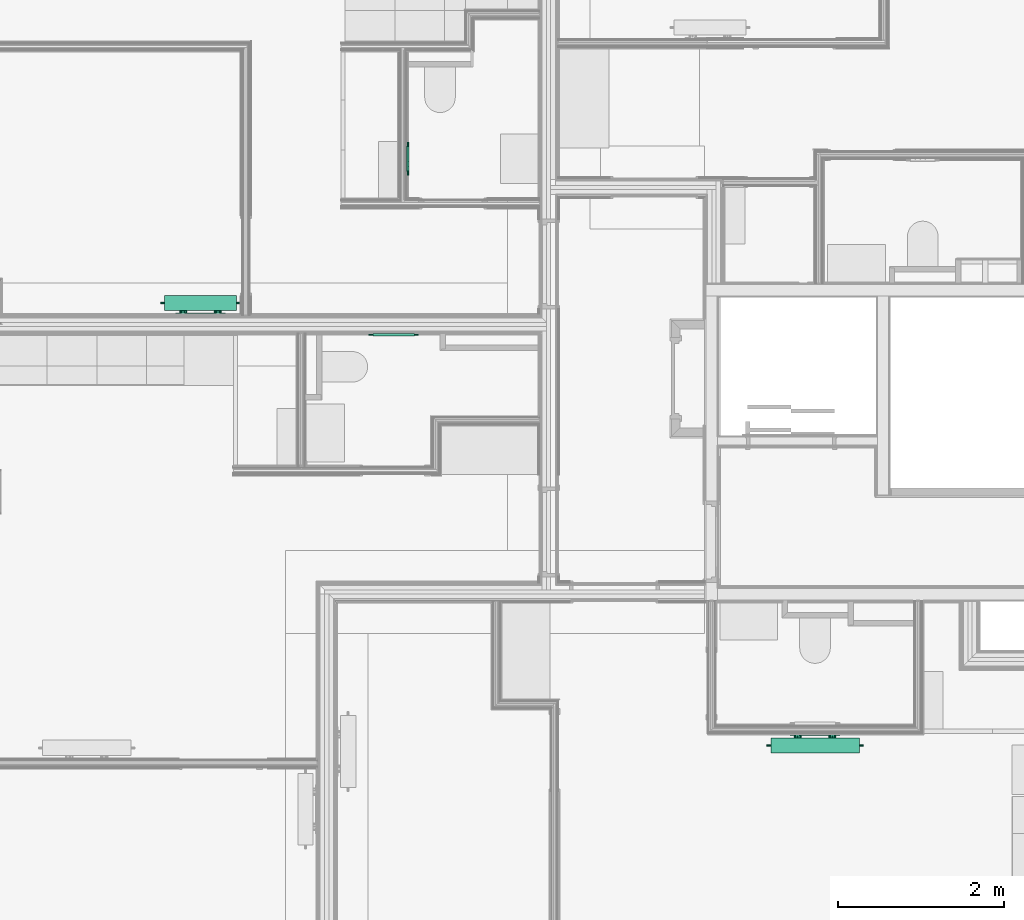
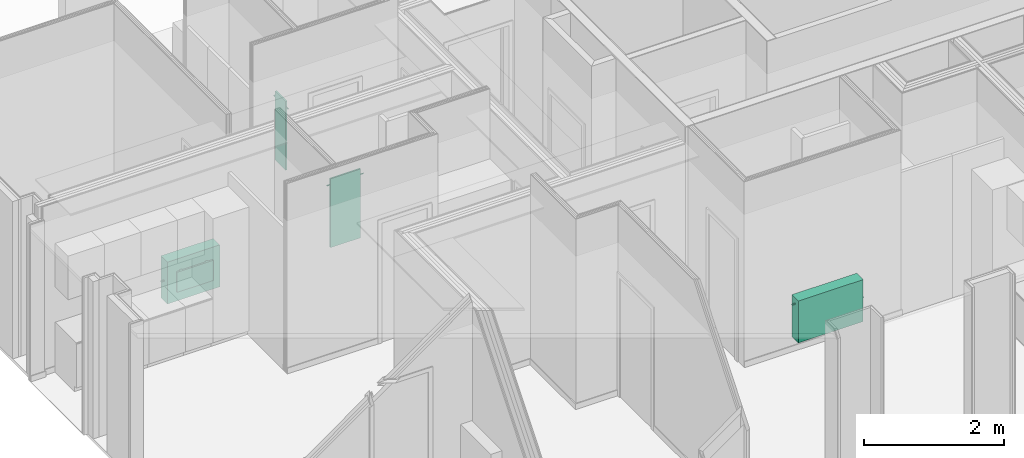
# One storey, part 56 of 64: 4 flow terminals.
"""IFC2X3 building model written with IfcOpenShell, lengths in metres."""

import ifcopenshell
import ifcopenshell.guid

model = None  # the IFC model being written
_history = None  # IfcOwnerHistory: only IFC2X3 demands one
_inside = {}  # id of a spatial element -> (the spatial element, [elements in it])
_under = {}  # id of a project, library or spatial element -> (it, [spatial elements below it])
_declared = {}  # id of a project -> (the project, [libraries it declares])
_typed = {}  # id of a type object -> (the type object, [elements of that type])
_made_of = {}  # id of a material, layer set ... -> (it, [elements and type objects made of it])


def new_model(schema):
    """Start an empty IFC model of exactly this schema.

    Asked for "IFC4X3", IfcOpenShell would pick the latest addendum, in which some entities
    have other attributes; the version numbers below select the first issue.
    IFC2X3 requires an IfcOwnerHistory on every rooted entity: one is made here for all.
    """
    global model, _history
    if schema == "IFC4X3":
        model = ifcopenshell.file(schema_version=(4, 3, 0, 0))
    else:
        model = ifcopenshell.file(schema=schema)
    _inside.clear()
    _under.clear()
    _declared.clear()
    _typed.clear()
    _made_of.clear()
    _history = None
    if model.schema == "IFC2X3":
        org = make("IfcOrganization", Name="unknown")
        user = make(
            "IfcPersonAndOrganization",
            ThePerson=make("IfcPerson", FamilyName="unknown"),
            TheOrganization=org,
        )
        app = make(
            "IfcApplication",
            ApplicationDeveloper=org,
            Version="unknown",
            ApplicationFullName="unknown",
            ApplicationIdentifier="unknown",
        )
        _history = make(
            "IfcOwnerHistory",
            OwningUser=user,
            OwningApplication=app,
            ChangeAction="ADDED",
            CreationDate=0,
        )
    return model


def make(cls, **values):
    """One entity of the class cls with the attributes given. An attribute that is None is left unset."""
    return model.create_entity(
        cls, **{name: value for name, value in values.items() if value is not None}
    )


def entity(cls, *values):
    """Any entity or typed value of the class cls, its attributes in the order of the schema. None: left unset."""
    e = model.create_entity(cls)
    for i, value in enumerate(values):
        if value is not None:
            e[i] = value
    return e


def rooted(cls, **values):
    """An entity with a GlobalId (a new one), such as an element, a storey or a relation."""
    return make(cls, GlobalId=ifcopenshell.guid.new(), OwnerHistory=_history, **values)


def si_unit(unit_type, name, prefix=None):
    """IfcSIUnit, for example si_unit("LENGTHUNIT", "METRE", prefix="MILLI")."""
    return make("IfcSIUnit", UnitType=unit_type, Prefix=prefix, Name=name)


def converted_unit(unit_type, name, factor, base, dimensions=None, offset=None):
    """IfcConversionBasedUnit, such as the inch: factor (a typed value) times the base unit."""
    return make(
        "IfcConversionBasedUnit"
        if offset is None
        else "IfcConversionBasedUnitWithOffset",
        ConversionOffset=offset,
        Dimensions=None
        if dimensions is None
        else entity("IfcDimensionalExponents", *dimensions),
        UnitType=unit_type,
        Name=name,
        ConversionFactor=make(
            "IfcMeasureWithUnit", ValueComponent=factor, UnitComponent=base
        ),
    )


def derived_unit(unit_type, elements):
    """IfcDerivedUnit: a product of units, each with its exponent."""
    return make(
        "IfcDerivedUnit",
        Elements=[
            make("IfcDerivedUnitElement", Unit=unit, Exponent=power)
            for unit, power in elements
        ],
        UnitType=unit_type,
    )


def money_unit(currency):
    """IfcMonetaryUnit."""
    return make("IfcMonetaryUnit", Currency=currency)


def assignment(units):
    """IfcUnitAssignment: the units of a project."""
    return None if units is None else make("IfcUnitAssignment", Units=units)


def point(xyz):
    """IfcCartesianPoint."""
    return None if xyz is None else make("IfcCartesianPoint", Coordinates=xyz)


def direction(xyz):
    """IfcDirection."""
    return None if xyz is None else make("IfcDirection", DirectionRatios=xyz)


def frame(location, z_axis=None, x_axis=None):
    """IfcAxis2Placement3D, a coordinate frame: its origin and axes. An axis left out is left unset."""
    return make(
        "IfcAxis2Placement3D",
        Location=point(location),
        Axis=direction(z_axis),
        RefDirection=direction(x_axis),
    )


def origin_with_axes():
    """The frame at (0, 0, 0) with the z axis (0, 0, 1) and the x axis (1, 0, 0) written out."""
    return frame((0.0, 0.0, 0.0), z_axis=(0.0, 0.0, 1.0), x_axis=(1.0, 0.0, 0.0))


def place(relative_to, where):
    """IfcLocalPlacement: puts the frame where relative to a parent placement (None: the world)."""
    return make(
        "IfcLocalPlacement", PlacementRelTo=relative_to, RelativePlacement=where
    )


def context(
    kind, dimensions, precision=None, world=None, true_north=None, identifier=None
):
    """IfcGeometricRepresentationContext, for example the 3D "Model" context."""
    return make(
        "IfcGeometricRepresentationContext",
        ContextIdentifier=identifier,
        ContextType=kind,
        CoordinateSpaceDimension=dimensions,
        Precision=precision,
        WorldCoordinateSystem=world,
        TrueNorth=true_north,
    )


def subcontext(parent, identifier, kind, view, scale=None):
    """IfcGeometricRepresentationSubContext, for example "Body" below "Model"."""
    return make(
        "IfcGeometricRepresentationSubContext",
        ContextIdentifier=identifier,
        ContextType=kind,
        ParentContext=parent,
        TargetScale=scale,
        TargetView=view,
    )


def project(units=None, contexts=None):
    """IfcProject with its units and contexts."""
    return rooted(
        "IfcProject",
        Name="project",
        RepresentationContexts=contexts,
        UnitsInContext=assignment(units),
    )


def spatial(cls, under=None, at=None, **own):
    """A site, building, storey or space (cls), placed at a placement, below another one or the project."""
    s = rooted(cls, ObjectPlacement=at, **own)
    if under is not None:
        _under.setdefault(under.id(), (under, []))[1].append(s)
    return s


def faces_of(points, faces, orient=None, outer=None):
    """IfcFace entities. A face is a list of loops; a loop is a list of indices into points, from 0.

    orient and outer hold one flag for each loop. By default every Orientation is true, the
    first loop of a face is its IfcFaceOuterBound and the others are IfcFaceBound.
    """
    made = []
    for i, loops in enumerate(faces):
        bounds = []
        for j, loop in enumerate(loops):
            is_outer = j == 0 if outer is None else outer[i][j]
            bounds.append(
                make(
                    "IfcFaceOuterBound" if is_outer else "IfcFaceBound",
                    Bound=make("IfcPolyLoop", Polygon=[points[k] for k in loop]),
                    Orientation=True if orient is None else orient[i][j],
                )
            )
        made.append(make("IfcFace", Bounds=bounds))
    return made


def open_shell(faces, orient=None, outer=None):
    """The faces of one IfcOpenShell. surface_model builds it on its shared points."""
    return ("IfcOpenShell", faces, orient, outer)


def surface_model(cls, points, shells):
    """IfcFaceBasedSurfaceModel or IfcShellBasedSurfaceModel (cls): surfaces that need not close."""
    shared = [point(p) for p in points]
    made = [make(c, CfsFaces=faces_of(shared, fs, o, b)) for c, fs, o, b in shells]
    if cls == "IfcFaceBasedSurfaceModel":
        return make(cls, FbsmFaces=made)
    return make(cls, SbsmBoundary=made)


def shape(context_of_items, identifier, shape_type, items):
    """IfcShapeRepresentation: the items that make up one representation, for example the "Body"."""
    return make(
        "IfcShapeRepresentation",
        ContextOfItems=context_of_items,
        RepresentationIdentifier=identifier,
        RepresentationType=shape_type,
        Items=items,
    )


def material(Name=None, Category=None):
    """IfcMaterial."""
    return make("IfcMaterial", Name=Name, Category=Category)


def made_of(thing, what):
    """Note that an element or type object is made of a material, layer set ...; save() writes the relation."""
    if what is not None:
        _made_of.setdefault(what.id(), (what, []))[1].append(thing)
    return thing


def type_object(cls, material=None, **own):
    """A type object (cls), such as IfcWallType, which elements share."""
    return made_of(rooted(cls, **own), material)


def element(
    cls,
    number,
    at=None,
    inside=None,
    cuts=None,
    type_object=None,
    material=None,
    context=None,
    identifier="Body",
    shape_type=None,
    held_by="IfcProductDefinitionShape",
    body=None,
    shapes=None,
    **own,
):
    """One element of the class cls, such as IfcWall. Its Tag is "e" and its number.

    at: its placement. inside: the storey or other place that contains it. cuts: it is an
    opening in that element (IfcRelVoidsElement). A single representation is given by context,
    identifier, shape_type and body (its items); several are given by shapes. held_by: the class
    of the entity that holds the representations. save() writes the other relations.
    """
    e = rooted(cls, Tag="e%d" % number, ObjectPlacement=at, **own)
    if body is not None:
        shapes = [shape(context, identifier, shape_type, body)]
    if shapes is not None:
        e.Representation = make(held_by, Representations=shapes)
    if inside is not None:
        _inside.setdefault(inside.id(), (inside, []))[1].append(e)
    if cuts is not None:
        rooted(
            "IfcRelVoidsElement", RelatingBuildingElement=cuts, RelatedOpeningElement=e
        )
    if type_object is not None:
        _typed.setdefault(type_object.id(), (type_object, []))[1].append(e)
    return made_of(e, material)


def aggregate(whole, parts):
    """IfcRelAggregates: a whole, such as a stair, and the parts it consists of."""
    return rooted("IfcRelAggregates", RelatingObject=whole, RelatedObjects=parts)


def save(model, path):
    """Write the relations noted so far, then the file.

    IfcRelAggregates (storeys below a building ...), IfcRelContainedInSpatialStructure (elements
    in a storey), IfcRelDefinesByType, IfcRelAssociatesMaterial and IfcRelDeclares: one each for
    every whole, place, type object, material and project.
    """
    for whole, parts in _under.values():
        aggregate(whole, parts)
    for where, things in _inside.values():
        rooted(
            "IfcRelContainedInSpatialStructure",
            RelatedElements=things,
            RelatingStructure=where,
        )
    for kind, things in _typed.values():
        rooted("IfcRelDefinesByType", RelatedObjects=things, RelatingType=kind)
    for what, things in _made_of.values():
        rooted("IfcRelAssociatesMaterial", RelatedObjects=things, RelatingMaterial=what)
    for by, libraries in _declared.values():
        rooted("IfcRelDeclares", RelatingContext=by, RelatedDefinitions=libraries)
    model.write(path)


model = new_model("IFC2X3")

# Units and contexts
model_context = context("Model", 3, precision=1e-05, world=origin_with_axes(), true_north=direction((0.0, 1.0)))
body_context = subcontext(model_context, "Body", "Model", "MODEL_VIEW", scale=1.0)
ifc_project = project(units=[si_unit("LENGTHUNIT", "METRE"), si_unit("AREAUNIT", "SQUARE_METRE"), si_unit("VOLUMEUNIT", "CUBIC_METRE"), si_unit("ABSORBEDDOSEUNIT", "GRAY"), si_unit("AMOUNTOFSUBSTANCEUNIT", "MOLE"), si_unit("DOSEEQUIVALENTUNIT", "SIEVERT"), si_unit("ELECTRICCAPACITANCEUNIT", "FARAD"), si_unit("ELECTRICCHARGEUNIT", "COULOMB"), si_unit("ELECTRICCONDUCTANCEUNIT", "SIEMENS"), si_unit("ELECTRICCURRENTUNIT", "AMPERE"), si_unit("ELECTRICRESISTANCEUNIT", "OHM"), si_unit("ELECTRICVOLTAGEUNIT", "VOLT"), si_unit("ENERGYUNIT", "JOULE"), si_unit("FORCEUNIT", "NEWTON"), si_unit("FREQUENCYUNIT", "HERTZ"), si_unit("ILLUMINANCEUNIT", "LUX"), si_unit("INDUCTANCEUNIT", "HENRY"), si_unit("LUMINOUSFLUXUNIT", "LUMEN"), si_unit("LUMINOUSINTENSITYUNIT", "CANDELA"), si_unit("MAGNETICFLUXDENSITYUNIT", "TESLA"), si_unit("MAGNETICFLUXUNIT", "WEBER"), si_unit("MASSUNIT", "GRAM"), converted_unit("PLANEANGLEUNIT", "degree", entity("IfcReal", 0.0174532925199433), si_unit("PLANEANGLEUNIT", "RADIAN"), dimensions=[0, 0, 0, 0, 0, 0, 0]), si_unit("POWERUNIT", "WATT"), si_unit("PRESSUREUNIT", "PASCAL"), si_unit("RADIOACTIVITYUNIT", "BECQUEREL"), si_unit("SOLIDANGLEUNIT", "STERADIAN"), si_unit("THERMODYNAMICTEMPERATUREUNIT", "KELVIN"), si_unit("TIMEUNIT", "SECOND"), derived_unit("ACCELERATIONUNIT", [(si_unit("LENGTHUNIT", "METRE"), 1), (si_unit("TIMEUNIT", "SECOND"), -2)]), derived_unit("ANGULARVELOCITYUNIT", [(converted_unit("PLANEANGLEUNIT", "degree", entity("IfcReal", 0.0174532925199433), si_unit("PLANEANGLEUNIT", "RADIAN"), dimensions=[0, 0, 0, 0, 0, 0, 0]), 1), (si_unit("TIMEUNIT", "SECOND"), -1)]), derived_unit("CURVATUREUNIT", [(converted_unit("PLANEANGLEUNIT", "degree", entity("IfcReal", 0.0174532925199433), si_unit("PLANEANGLEUNIT", "RADIAN"), dimensions=[0, 0, 0, 0, 0, 0, 0]), 1), (si_unit("LENGTHUNIT", "METRE"), -1)]), derived_unit("DYNAMICVISCOSITYUNIT", [(si_unit("PRESSUREUNIT", "PASCAL"), 1), (si_unit("TIMEUNIT", "SECOND"), 1)]), derived_unit("HEATFLUXDENSITYUNIT", [(si_unit("POWERUNIT", "WATT"), 1), (si_unit("LENGTHUNIT", "METRE"), -2)]), derived_unit("HEATINGVALUEUNIT", [(si_unit("ENERGYUNIT", "JOULE"), 1), (si_unit("MASSUNIT", "GRAM"), -1)]), derived_unit("INTEGERCOUNTRATEUNIT", [(si_unit("TIMEUNIT", "SECOND"), -1)]), derived_unit("IONCONCENTRATIONUNIT", [(si_unit("MASSUNIT", "GRAM"), 1), (si_unit("VOLUMEUNIT", "CUBIC_METRE"), -1)]), derived_unit("ISOTHERMALMOISTURECAPACITYUNIT", [(si_unit("VOLUMEUNIT", "CUBIC_METRE"), 1), (si_unit("MASSUNIT", "GRAM"), -1)]), derived_unit("KINEMATICVISCOSITYUNIT", [(si_unit("AREAUNIT", "SQUARE_METRE"), 1), (si_unit("TIMEUNIT", "SECOND"), -1)]), derived_unit("LINEARFORCEUNIT", [(si_unit("FORCEUNIT", "NEWTON"), 1), (si_unit("LENGTHUNIT", "METRE"), -1)]), derived_unit("LINEARMOMENTUNIT", [(si_unit("FORCEUNIT", "NEWTON"), 1), (si_unit("LENGTHUNIT", "METRE"), -1)]), derived_unit("LINEARSTIFFNESSUNIT", [(si_unit("FORCEUNIT", "NEWTON"), 1), (si_unit("LENGTHUNIT", "METRE"), -1)]), derived_unit("LINEARVELOCITYUNIT", [(si_unit("LENGTHUNIT", "METRE"), 1), (si_unit("TIMEUNIT", "SECOND"), -1)]), derived_unit("LUMINOUSINTENSITYDISTRIBUTIONUNIT", [(si_unit("LUMINOUSINTENSITYUNIT", "CANDELA"), 1), (si_unit("LUMINOUSFLUXUNIT", "LUMEN"), -1)]), derived_unit("MASSDENSITYUNIT", [(si_unit("MASSUNIT", "GRAM"), 1), (si_unit("VOLUMEUNIT", "CUBIC_METRE"), -1)]), derived_unit("MASSFLOWRATEUNIT", [(si_unit("MASSUNIT", "GRAM"), 1), (si_unit("TIMEUNIT", "SECOND"), -1)]), derived_unit("MASSPERLENGTHUNIT", [(si_unit("MASSUNIT", "GRAM"), 1), (si_unit("LENGTHUNIT", "METRE"), -1)]), derived_unit("MODULUSOFELASTICITYUNIT", [(si_unit("FORCEUNIT", "NEWTON"), 1), (si_unit("AREAUNIT", "SQUARE_METRE"), -1)]), derived_unit("MODULUSOFLINEARSUBGRADEREACTIONUNIT", [(si_unit("FORCEUNIT", "NEWTON"), 1), (si_unit("LENGTHUNIT", "METRE"), -2)]), derived_unit("MODULUSOFROTATIONALSUBGRADEREACTIONUNIT", [(si_unit("FORCEUNIT", "NEWTON"), 1), (si_unit("LENGTHUNIT", "METRE"), 1)]), derived_unit("MODULUSOFSUBGRADEREACTIONUNIT", [(si_unit("FORCEUNIT", "NEWTON"), 1), (si_unit("VOLUMEUNIT", "CUBIC_METRE"), -1)]), derived_unit("MOISTUREDIFFUSIVITYUNIT", [(si_unit("VOLUMEUNIT", "CUBIC_METRE"), 1), (si_unit("TIMEUNIT", "SECOND"), -1)]), derived_unit("MOLECULARWEIGHTUNIT", [(si_unit("MASSUNIT", "GRAM"), 1), (si_unit("AMOUNTOFSUBSTANCEUNIT", "MOLE"), -1)]), derived_unit("PLANARFORCEUNIT", [(si_unit("FORCEUNIT", "NEWTON"), 1), (si_unit("LENGTHUNIT", "METRE"), -2)]), derived_unit("ROTATIONALFREQUENCYUNIT", [(si_unit("TIMEUNIT", "SECOND"), -1)]), derived_unit("ROTATIONALMASSUNIT", [(si_unit("MASSUNIT", "GRAM"), 1), (si_unit("LENGTHUNIT", "METRE"), 2)]), derived_unit("ROTATIONALSTIFFNESSUNIT", [(si_unit("FORCEUNIT", "NEWTON"), 1), (si_unit("LENGTHUNIT", "METRE"), 1), (converted_unit("PLANEANGLEUNIT", "degree", entity("IfcReal", 0.0174532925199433), si_unit("PLANEANGLEUNIT", "RADIAN"), dimensions=[0, 0, 0, 0, 0, 0, 0]), -1)]), derived_unit("SECTIONAREAINTEGRALUNIT", [(si_unit("LENGTHUNIT", "METRE"), 5)]), derived_unit("SECTIONMODULUSUNIT", [(si_unit("LENGTHUNIT", "METRE"), 3)]), derived_unit("SHEARMODULUSUNIT", [(si_unit("FORCEUNIT", "NEWTON"), 1), (si_unit("AREAUNIT", "SQUARE_METRE"), -1)]), derived_unit("SOUNDPOWERUNIT", [(si_unit("ENERGYUNIT", "JOULE"), 1), (si_unit("TIMEUNIT", "SECOND"), -1)]), derived_unit("SPECIFICHEATCAPACITYUNIT", [(si_unit("FORCEUNIT", "NEWTON"), 1), (si_unit("MASSUNIT", "GRAM"), -1), (si_unit("THERMODYNAMICTEMPERATUREUNIT", "KELVIN"), -1)]), derived_unit("TEMPERATUREGRADIENTUNIT", [(si_unit("THERMODYNAMICTEMPERATUREUNIT", "KELVIN"), 1), (si_unit("LENGTHUNIT", "METRE"), -1)]), derived_unit("THERMALADMITTANCEUNIT", [(si_unit("POWERUNIT", "WATT"), 1), (si_unit("AREAUNIT", "SQUARE_METRE"), -1), (si_unit("THERMODYNAMICTEMPERATUREUNIT", "KELVIN"), -1)]), derived_unit("THERMALCONDUCTANCEUNIT", [(si_unit("POWERUNIT", "WATT"), 1), (si_unit("LENGTHUNIT", "METRE"), -1), (si_unit("THERMODYNAMICTEMPERATUREUNIT", "KELVIN"), -1)]), derived_unit("THERMALEXPANSIONCOEFFICIENTUNIT", [(si_unit("THERMODYNAMICTEMPERATUREUNIT", "KELVIN"), -1)]), derived_unit("THERMALRESISTANCEUNIT", [(si_unit("AREAUNIT", "SQUARE_METRE"), 1), (si_unit("POWERUNIT", "WATT"), -1)]), derived_unit("THERMALTRANSMITTANCEUNIT", [(si_unit("POWERUNIT", "WATT"), 1), (si_unit("AREAUNIT", "SQUARE_METRE"), -1), (si_unit("THERMODYNAMICTEMPERATUREUNIT", "KELVIN"), -1)]), derived_unit("TORQUEUNIT", [(si_unit("FORCEUNIT", "NEWTON"), 1), (si_unit("LENGTHUNIT", "METRE"), 1)]), derived_unit("VAPORPERMEABILITYUNIT", [(si_unit("MASSUNIT", "GRAM"), 1), (si_unit("TIMEUNIT", "SECOND"), -1)]), derived_unit("VOLUMETRICFLOWRATEUNIT", [(si_unit("VOLUMEUNIT", "CUBIC_METRE"), 1), (si_unit("TIMEUNIT", "SECOND"), -1)]), derived_unit("WARPINGCONSTANTUNIT", [(si_unit("LENGTHUNIT", "METRE"), 6)]), derived_unit("WARPINGMOMENTUNIT", [(si_unit("FORCEUNIT", "NEWTON"), 1), (si_unit("LENGTHUNIT", "METRE"), 2)]), money_unit("GBP")], contexts=[model_context])

# Site, building, storey, space
site_placement = place(None, origin_with_axes())
site = spatial("IfcSite", under=ifc_project, at=site_placement, Name="Site", CompositionType="ELEMENT")
building_placement = place(site_placement, origin_with_axes())
building = spatial("IfcBuilding", under=site, at=building_placement, Name="Building01", CompositionType="ELEMENT")
storey_placement = place(building_placement, frame((0.0, 0.0, 8.64), z_axis=(0.0, 0.0, 1.0), x_axis=(1.0, 0.0, 0.0)))
storey = spatial("IfcBuildingStorey", under=building, at=storey_placement, Name="2F", CompositionType="ELEMENT", Elevation=8.64)
space_1_placement = place(storey_placement, frame((7.064669, 14.582, 0.017975), z_axis=(0.0, 0.0, 1.0), x_axis=(-1.0, 0.0, 0.0)))
space_1 = spatial("IfcSpace", under=storey, at=space_1_placement, Name="14", CompositionType="ELEMENT", InteriorOrExteriorSpace="NOTDEFINED")

# Flow terminal
ifc_material = material(Name="M_BSUK_Ventilation")
space_heater_type_1 = type_object("IfcSpaceHeaterType", Name="M-BmvRadiatorpanel-Panel", PredefinedType="NOTDEFINED")
flow_terminal_1_placement = place(storey_placement, frame((2.540669, 8.58092, 0.68), z_axis=(0.0, 0.0, 1.0), x_axis=(-1.0, 0.0, 0.0)))
element("IfcFlowTerminal", 1, at=flow_terminal_1_placement, inside=space_1, type_object=space_heater_type_1, material=ifc_material, Name="M-BmvRadiatorpanel-Panel", ObjectType="M-BmvRadiatorpanel-Panel", context=body_context, shape_type="SurfaceModel", body=[
    surface_model("IfcShellBasedSurfaceModel", [(-0.865, -0.0925, 0.365), (-0.865, 0.0925, 0.365), (0.0, 0.0925, 0.365), (0.0, -0.0925, 0.365), (-0.865, -0.0925, -0.365), (-0.865, 0.0925, -0.365), (0.0, -0.0925, -0.365), (0.0, 0.0925, -0.365), (-0.1325, 0.12025, 0.175), (-0.7325, 0.12025, 0.175), (-0.7325, 0.14525, 0.175), (-0.1325, 0.14525, 0.175), (-0.7325, 0.14525, -0.175), (-0.1325, 0.14525, -0.175), (-0.7325, 0.12025, -0.175), (-0.1325, 0.12025, -0.175), (-0.2225, 0.0925, 0.0775), (-0.2225, 0.12025, 0.0775), (-0.205279, 0.12025, 0.080925), (-0.205279, 0.0925, 0.080925), (-0.19068, 0.12025, 0.09068), (-0.19068, 0.0925, 0.09068), (-0.180925, 0.12025, 0.105279), (-0.180925, 0.0925, 0.105279), (-0.1775, 0.12025, 0.1225), (-0.1775, 0.0925, 0.1225), (-0.180925, 0.12025, 0.139721), (-0.180925, 0.0925, 0.139721), (-0.19068, 0.12025, 0.15432), (-0.19068, 0.0925, 0.15432), (-0.205279, 0.12025, 0.164075), (-0.205279, 0.0925, 0.164075), (-0.2225, 0.12025, 0.1675), (-0.2225, 0.0925, 0.1675), (-0.239721, 0.12025, 0.164075), (-0.239721, 0.0925, 0.164075), (-0.25432, 0.12025, 0.15432), (-0.25432, 0.0925, 0.15432), (-0.264075, 0.12025, 0.139721), (-0.264075, 0.0925, 0.139721), (-0.2675, 0.12025, 0.1225), (-0.2675, 0.0925, 0.1225), (-0.264075, 0.12025, 0.105279), (-0.264075, 0.0925, 0.105279), (-0.25432, 0.12025, 0.09068), (-0.25432, 0.0925, 0.09068), (-0.239721, 0.12025, 0.080925), (-0.239721, 0.0925, 0.080925), (-0.6425, 0.0925, 0.0775), (-0.6425, 0.12025, 0.0775), (-0.625279, 0.12025, 0.080925), (-0.625279, 0.0925, 0.080925), (-0.61068, 0.12025, 0.09068), (-0.61068, 0.0925, 0.09068), (-0.600925, 0.12025, 0.105279), (-0.600925, 0.0925, 0.105279), (-0.5975, 0.12025, 0.1225), (-0.5975, 0.0925, 0.1225), (-0.600925, 0.12025, 0.139721), (-0.600925, 0.0925, 0.139721), (-0.61068, 0.12025, 0.15432), (-0.61068, 0.0925, 0.15432), (-0.625279, 0.12025, 0.164075), (-0.625279, 0.0925, 0.164075), (-0.6425, 0.12025, 0.1675), (-0.6425, 0.0925, 0.1675), (-0.659721, 0.12025, 0.164075), (-0.659721, 0.0925, 0.164075), (-0.67432, 0.12025, 0.15432), (-0.67432, 0.0925, 0.15432), (-0.684075, 0.12025, 0.139721), (-0.684075, 0.0925, 0.139721), (-0.6875, 0.12025, 0.1225), (-0.6875, 0.0925, 0.1225), (-0.684075, 0.12025, 0.105279), (-0.684075, 0.0925, 0.105279), (-0.67432, 0.12025, 0.09068), (-0.67432, 0.0925, 0.09068), (-0.659721, 0.12025, 0.080925), (-0.659721, 0.0925, 0.080925), (0.05, 0.0, -0.0225), (0.0, 0.0, -0.0225), (0.0, 0.004784, -0.021548), (0.05, 0.004784, -0.021548), (0.0, 0.008839, -0.018839), (0.05, 0.008839, -0.018839), (0.0, 0.011548, -0.014784), (0.05, 0.011548, -0.014784), (0.0, 0.0125, -0.01), (0.05, 0.0125, -0.01), (0.0, 0.011548, -0.005216), (0.05, 0.011548, -0.005216), (0.0, 0.008839, -0.001161), (0.05, 0.008839, -0.001161), (0.0, 0.004784, 0.001548), (0.05, 0.004784, 0.001548), (0.0, 0.0, 0.0025), (0.05, 0.0, 0.0025), (0.0, -0.004784, 0.001548), (0.05, -0.004784, 0.001548), (0.0, -0.008839, -0.001161), (0.05, -0.008839, -0.001161), (0.0, -0.011548, -0.005216), (0.05, -0.011548, -0.005216), (0.0, -0.0125, -0.01), (0.05, -0.0125, -0.01), (0.0, -0.011548, -0.014784), (0.05, -0.011548, -0.014784), (0.0, -0.008839, -0.018839), (0.05, -0.008839, -0.018839), (0.0, -0.004784, -0.021548), (0.05, -0.004784, -0.021548), (-0.915, 0.0, 0.2525), (-0.865, 0.0, 0.2525), (-0.865, -0.004784, 0.253452), (-0.915, -0.004784, 0.253452), (-0.865, -0.008839, 0.256161), (-0.915, -0.008839, 0.256161), (-0.865, -0.011548, 0.260216), (-0.915, -0.011548, 0.260216), (-0.865, -0.0125, 0.265), (-0.915, -0.0125, 0.265), (-0.865, -0.011548, 0.269784), (-0.915, -0.011548, 0.269784), (-0.865, -0.008839, 0.273839), (-0.915, -0.008839, 0.273839), (-0.865, -0.004784, 0.276548), (-0.915, -0.004784, 0.276548), (-0.865, 0.0, 0.2775), (-0.915, 0.0, 0.2775), (-0.865, 0.004784, 0.276548), (-0.915, 0.004784, 0.276548), (-0.865, 0.008839, 0.273839), (-0.915, 0.008839, 0.273839), (-0.865, 0.011548, 0.269784), (-0.915, 0.011548, 0.269784), (-0.865, 0.0125, 0.265), (-0.915, 0.0125, 0.265), (-0.865, 0.011548, 0.260216), (-0.915, 0.011548, 0.260216), (-0.865, 0.008839, 0.256161), (-0.915, 0.008839, 0.256161), (-0.865, 0.004784, 0.253452), (-0.915, 0.004784, 0.253452)], [open_shell([[[0, 1, 2, 3]], [[4, 5, 1, 0]], [[6, 7, 5, 4]], [[3, 2, 7, 6]], [[1, 5, 7, 2]], [[3, 6, 4, 0]], [[8, 9, 10, 11]], [[11, 10, 12, 13]], [[13, 12, 14, 15]], [[15, 14, 9, 8]], [[9, 14, 12, 10]], [[11, 13, 15, 8]], [[16, 17, 18, 19]], [[19, 18, 20, 21]], [[21, 20, 22, 23]], [[23, 22, 24, 25]], [[25, 24, 26, 27]], [[27, 26, 28, 29]], [[29, 28, 30, 31]], [[31, 30, 32, 33]], [[33, 32, 34, 35]], [[35, 34, 36, 37]], [[37, 36, 38, 39]], [[39, 38, 40, 41]], [[41, 40, 42, 43]], [[43, 42, 44, 45]], [[45, 44, 46, 47]], [[47, 46, 17, 16]], [[48, 49, 50, 51]], [[51, 50, 52, 53]], [[53, 52, 54, 55]], [[55, 54, 56, 57]], [[57, 56, 58, 59]], [[59, 58, 60, 61]], [[61, 60, 62, 63]], [[63, 62, 64, 65]], [[65, 64, 66, 67]], [[67, 66, 68, 69]], [[69, 68, 70, 71]], [[71, 70, 72, 73]], [[73, 72, 74, 75]], [[75, 74, 76, 77]], [[77, 76, 78, 79]], [[79, 78, 49, 48]], [[80, 81, 82, 83]], [[83, 82, 84, 85]], [[85, 84, 86, 87]], [[87, 86, 88, 89]], [[89, 88, 90, 91]], [[91, 90, 92, 93]], [[93, 92, 94, 95]], [[95, 94, 96, 97]], [[97, 96, 98, 99]], [[99, 98, 100, 101]], [[101, 100, 102, 103]], [[103, 102, 104, 105]], [[105, 104, 106, 107]], [[107, 106, 108, 109]], [[109, 108, 110, 111]], [[111, 110, 81, 80]], [[112, 113, 114, 115]], [[115, 114, 116, 117]], [[117, 116, 118, 119]], [[119, 118, 120, 121]], [[121, 120, 122, 123]], [[123, 122, 124, 125]], [[125, 124, 126, 127]], [[127, 126, 128, 129]], [[129, 128, 130, 131]], [[131, 130, 132, 133]], [[133, 132, 134, 135]], [[135, 134, 136, 137]], [[137, 136, 138, 139]], [[139, 138, 140, 141]], [[141, 140, 142, 143]], [[143, 142, 113, 112]]])]),
])

# Space
space_2_placement = place(storey_placement, frame((12.15, 4.98, 0.017975), z_axis=(0.0, 0.0, 1.0), x_axis=(-1.0, 0.0, 0.0)))
space_2 = spatial("IfcSpace", under=storey, at=space_2_placement, Name="12", CompositionType="ELEMENT", InteriorOrExteriorSpace="NOTDEFINED")

# Flow terminal
flow_terminal_2_placement = place(storey_placement, frame((10.927036, 3.23975, 0.68), z_axis=(0.0, 0.0, 1.0), x_axis=(1.0, 0.0, 0.0)))
element("IfcFlowTerminal", 2, at=flow_terminal_2_placement, inside=space_2, type_object=space_heater_type_1, material=ifc_material, Name="M-BmvRadiatorpanel-Panel", ObjectType="M-BmvRadiatorpanel-Panel", context=body_context, shape_type="SurfaceModel", body=[
    surface_model("IfcShellBasedSurfaceModel", [(-1.069, -0.0925, 0.365), (-1.069, 0.0925, 0.365), (0.0, 0.0925, 0.365), (0.0, -0.0925, 0.365), (-1.069, -0.0925, -0.365), (-1.069, 0.0925, -0.365), (0.0, -0.0925, -0.365), (0.0, 0.0925, -0.365), (-0.2345, 0.12025, 0.175), (-0.8345, 0.12025, 0.175), (-0.8345, 0.14525, 0.175), (-0.2345, 0.14525, 0.175), (-0.8345, 0.14525, -0.175), (-0.2345, 0.14525, -0.175), (-0.8345, 0.12025, -0.175), (-0.2345, 0.12025, -0.175), (-0.3245, 0.0925, 0.0775), (-0.3245, 0.12025, 0.0775), (-0.307279, 0.12025, 0.080925), (-0.307279, 0.0925, 0.080925), (-0.29268, 0.12025, 0.09068), (-0.29268, 0.0925, 0.09068), (-0.282925, 0.12025, 0.105279), (-0.282925, 0.0925, 0.105279), (-0.2795, 0.12025, 0.1225), (-0.2795, 0.0925, 0.1225), (-0.282925, 0.12025, 0.139721), (-0.282925, 0.0925, 0.139721), (-0.29268, 0.12025, 0.15432), (-0.29268, 0.0925, 0.15432), (-0.307279, 0.12025, 0.164075), (-0.307279, 0.0925, 0.164075), (-0.3245, 0.12025, 0.1675), (-0.3245, 0.0925, 0.1675), (-0.341721, 0.12025, 0.164075), (-0.341721, 0.0925, 0.164075), (-0.35632, 0.12025, 0.15432), (-0.35632, 0.0925, 0.15432), (-0.366075, 0.12025, 0.139721), (-0.366075, 0.0925, 0.139721), (-0.3695, 0.12025, 0.1225), (-0.3695, 0.0925, 0.1225), (-0.366075, 0.12025, 0.105279), (-0.366075, 0.0925, 0.105279), (-0.35632, 0.12025, 0.09068), (-0.35632, 0.0925, 0.09068), (-0.341721, 0.12025, 0.080925), (-0.341721, 0.0925, 0.080925), (-0.7445, 0.0925, 0.0775), (-0.7445, 0.12025, 0.0775), (-0.727279, 0.12025, 0.080925), (-0.727279, 0.0925, 0.080925), (-0.71268, 0.12025, 0.09068), (-0.71268, 0.0925, 0.09068), (-0.702925, 0.12025, 0.105279), (-0.702925, 0.0925, 0.105279), (-0.6995, 0.12025, 0.1225), (-0.6995, 0.0925, 0.1225), (-0.702925, 0.12025, 0.139721), (-0.702925, 0.0925, 0.139721), (-0.71268, 0.12025, 0.15432), (-0.71268, 0.0925, 0.15432), (-0.727279, 0.12025, 0.164075), (-0.727279, 0.0925, 0.164075), (-0.7445, 0.12025, 0.1675), (-0.7445, 0.0925, 0.1675), (-0.761721, 0.12025, 0.164075), (-0.761721, 0.0925, 0.164075), (-0.77632, 0.12025, 0.15432), (-0.77632, 0.0925, 0.15432), (-0.786075, 0.12025, 0.139721), (-0.786075, 0.0925, 0.139721), (-0.7895, 0.12025, 0.1225), (-0.7895, 0.0925, 0.1225), (-0.786075, 0.12025, 0.105279), (-0.786075, 0.0925, 0.105279), (-0.77632, 0.12025, 0.09068), (-0.77632, 0.0925, 0.09068), (-0.761721, 0.12025, 0.080925), (-0.761721, 0.0925, 0.080925), (0.05, 0.0, -0.0225), (0.0, 0.0, -0.0225), (0.0, 0.004784, -0.021548), (0.05, 0.004784, -0.021548), (0.0, 0.008839, -0.018839), (0.05, 0.008839, -0.018839), (0.0, 0.011548, -0.014784), (0.05, 0.011548, -0.014784), (0.0, 0.0125, -0.01), (0.05, 0.0125, -0.01), (0.0, 0.011548, -0.005216), (0.05, 0.011548, -0.005216), (0.0, 0.008839, -0.001161), (0.05, 0.008839, -0.001161), (0.0, 0.004784, 0.001548), (0.05, 0.004784, 0.001548), (0.0, 0.0, 0.0025), (0.05, 0.0, 0.0025), (0.0, -0.004784, 0.001548), (0.05, -0.004784, 0.001548), (0.0, -0.008839, -0.001161), (0.05, -0.008839, -0.001161), (0.0, -0.011548, -0.005216), (0.05, -0.011548, -0.005216), (0.0, -0.0125, -0.01), (0.05, -0.0125, -0.01), (0.0, -0.011548, -0.014784), (0.05, -0.011548, -0.014784), (0.0, -0.008839, -0.018839), (0.05, -0.008839, -0.018839), (0.0, -0.004784, -0.021548), (0.05, -0.004784, -0.021548), (-1.119, 0.0, 0.2525), (-1.069, 0.0, 0.2525), (-1.069, -0.004784, 0.253452), (-1.119, -0.004784, 0.253452), (-1.069, -0.008839, 0.256161), (-1.119, -0.008839, 0.256161), (-1.069, -0.011548, 0.260216), (-1.119, -0.011548, 0.260216), (-1.069, -0.0125, 0.265), (-1.119, -0.0125, 0.265), (-1.069, -0.011548, 0.269784), (-1.119, -0.011548, 0.269784), (-1.069, -0.008839, 0.273839), (-1.119, -0.008839, 0.273839), (-1.069, -0.004784, 0.276548), (-1.119, -0.004784, 0.276548), (-1.069, 0.0, 0.2775), (-1.119, 0.0, 0.2775), (-1.069, 0.004784, 0.276548), (-1.119, 0.004784, 0.276548), (-1.069, 0.008839, 0.273839), (-1.119, 0.008839, 0.273839), (-1.069, 0.011548, 0.269784), (-1.119, 0.011548, 0.269784), (-1.069, 0.0125, 0.265), (-1.119, 0.0125, 0.265), (-1.069, 0.011548, 0.260216), (-1.119, 0.011548, 0.260216), (-1.069, 0.008839, 0.256161), (-1.119, 0.008839, 0.256161), (-1.069, 0.004784, 0.253452), (-1.119, 0.004784, 0.253452)], [open_shell([[[0, 1, 2, 3]], [[4, 5, 1, 0]], [[6, 7, 5, 4]], [[3, 2, 7, 6]], [[1, 5, 7, 2]], [[3, 6, 4, 0]], [[8, 9, 10, 11]], [[11, 10, 12, 13]], [[13, 12, 14, 15]], [[15, 14, 9, 8]], [[9, 14, 12, 10]], [[11, 13, 15, 8]], [[16, 17, 18, 19]], [[19, 18, 20, 21]], [[21, 20, 22, 23]], [[23, 22, 24, 25]], [[25, 24, 26, 27]], [[27, 26, 28, 29]], [[29, 28, 30, 31]], [[31, 30, 32, 33]], [[33, 32, 34, 35]], [[35, 34, 36, 37]], [[37, 36, 38, 39]], [[39, 38, 40, 41]], [[41, 40, 42, 43]], [[43, 42, 44, 45]], [[45, 44, 46, 47]], [[47, 46, 17, 16]], [[48, 49, 50, 51]], [[51, 50, 52, 53]], [[53, 52, 54, 55]], [[55, 54, 56, 57]], [[57, 56, 58, 59]], [[59, 58, 60, 61]], [[61, 60, 62, 63]], [[63, 62, 64, 65]], [[65, 64, 66, 67]], [[67, 66, 68, 69]], [[69, 68, 70, 71]], [[71, 70, 72, 73]], [[73, 72, 74, 75]], [[75, 74, 76, 77]], [[77, 76, 78, 79]], [[79, 78, 49, 48]], [[80, 81, 82, 83]], [[83, 82, 84, 85]], [[85, 84, 86, 87]], [[87, 86, 88, 89]], [[89, 88, 90, 91]], [[91, 90, 92, 93]], [[93, 92, 94, 95]], [[95, 94, 96, 97]], [[97, 96, 98, 99]], [[99, 98, 100, 101]], [[101, 100, 102, 103]], [[103, 102, 104, 105]], [[105, 104, 106, 107]], [[107, 106, 108, 109]], [[109, 108, 110, 111]], [[111, 110, 81, 80]], [[112, 113, 114, 115]], [[115, 114, 116, 117]], [[117, 116, 118, 119]], [[119, 118, 120, 121]], [[121, 120, 122, 123]], [[123, 122, 124, 125]], [[125, 124, 126, 127]], [[127, 126, 128, 129]], [[129, 128, 130, 131]], [[131, 130, 132, 133]], [[133, 132, 134, 135]], [[135, 134, 136, 137]], [[137, 136, 138, 139]], [[139, 138, 140, 141]], [[141, 140, 142, 143]], [[143, 142, 113, 112]]])]),
])

# Space
space_3_placement = place(storey_placement, frame((4.24073, 6.606475, 0.017975), z_axis=(0.0, 0.0, 1.0), x_axis=(1.0, 0.0, 0.0)))
space_3 = spatial("IfcSpace", under=storey, at=space_3_placement, Name="bath", CompositionType="ELEMENT", InteriorOrExteriorSpace="NOTDEFINED")

# Flow terminals
space_heater_type_2 = type_object("IfcSpaceHeaterType", Name="M-BmvRadiator-Column", PredefinedType="NOTDEFINED")
flow_terminal_3_placement = place(storey_placement, frame((5.054088, 8.19817, 1.2), z_axis=(0.0, 0.0, 1.0), x_axis=(1.0, 0.0, 0.0)))
element("IfcFlowTerminal", 3, at=flow_terminal_3_placement, inside=space_3, type_object=space_heater_type_2, material=ifc_material, Name="M-BmvRadiator-Column", ObjectType="M-BmvRadiator-Column", context=body_context, shape_type="SurfaceModel", body=[
    surface_model("IfcShellBasedSurfaceModel", [(0.0, -0.0125, 0.6), (0.0, -0.0125, -0.6), (0.0, 0.0125, -0.6), (0.0, 0.0125, 0.6), (0.5, -0.0125, 0.6), (0.5, -0.0125, -0.6), (0.5, 0.0125, -0.6), (0.5, 0.0125, 0.6), (0.1, 0.0125, 0.6), (0.1, -0.0125, 0.6), (0.1, -0.0125, -0.6), (0.1, 0.0125, -0.6), (0.2, 0.0125, 0.6), (0.2, -0.0125, 0.6), (0.2, -0.0125, -0.6), (0.2, 0.0125, -0.6), (0.3, 0.0125, 0.6), (0.3, -0.0125, 0.6), (0.3, -0.0125, -0.6), (0.3, 0.0125, -0.6), (0.4, 0.0125, 0.6), (0.4, -0.0125, 0.6), (0.4, -0.0125, -0.6), (0.4, 0.0125, -0.6), (-0.05, 0.0, 0.4825), (0.0, 0.0, 0.4825), (0.0, -0.003827, 0.483261), (-0.05, -0.003827, 0.483261), (0.0, -0.007071, 0.485429), (-0.05, -0.007071, 0.485429), (0.0, -0.009239, 0.488673), (-0.05, -0.009239, 0.488673), (0.0, -0.01, 0.4925), (-0.05, -0.01, 0.4925), (0.0, -0.009239, 0.496327), (-0.05, -0.009239, 0.496327), (0.0, -0.007071, 0.499571), (-0.05, -0.007071, 0.499571), (0.0, -0.003827, 0.501739), (-0.05, -0.003827, 0.501739), (0.0, 0.0, 0.5025), (-0.05, 0.0, 0.5025), (0.0, 0.003827, 0.501739), (-0.05, 0.003827, 0.501739), (0.0, 0.007071, 0.499571), (-0.05, 0.007071, 0.499571), (0.0, 0.009239, 0.496327), (-0.05, 0.009239, 0.496327), (0.0, 0.01, 0.4925), (-0.05, 0.01, 0.4925), (0.0, 0.009239, 0.488673), (-0.05, 0.009239, 0.488673), (0.0, 0.007071, 0.485429), (-0.05, 0.007071, 0.485429), (0.0, 0.003827, 0.483261), (-0.05, 0.003827, 0.483261), (0.55, 0.0, 0.4884), (0.5, 0.0, 0.4884), (0.5, 0.003827, 0.489161), (0.55, 0.003827, 0.489161), (0.5, 0.007071, 0.491329), (0.55, 0.007071, 0.491329), (0.5, 0.009239, 0.494573), (0.55, 0.009239, 0.494573), (0.5, 0.01, 0.4984), (0.55, 0.01, 0.4984), (0.5, 0.009239, 0.502227), (0.55, 0.009239, 0.502227), (0.5, 0.007071, 0.505471), (0.55, 0.007071, 0.505471), (0.5, 0.003827, 0.507639), (0.55, 0.003827, 0.507639), (0.5, 0.0, 0.5084), (0.55, 0.0, 0.5084), (0.5, -0.003827, 0.507639), (0.55, -0.003827, 0.507639), (0.5, -0.007071, 0.505471), (0.55, -0.007071, 0.505471), (0.5, -0.009239, 0.502227), (0.55, -0.009239, 0.502227), (0.5, -0.01, 0.4984), (0.55, -0.01, 0.4984), (0.5, -0.009239, 0.494573), (0.55, -0.009239, 0.494573), (0.5, -0.007071, 0.491329), (0.55, -0.007071, 0.491329), (0.5, -0.003827, 0.489161), (0.55, -0.003827, 0.489161)], [open_shell([[[0, 1, 2, 3]], [[4, 5, 6, 7]], [[8, 3, 0, 9]], [[9, 0, 1, 10]], [[10, 1, 2, 11]], [[11, 2, 3, 8]], [[12, 8, 9, 13]], [[13, 9, 10, 14]], [[14, 10, 11, 15]], [[15, 11, 8, 12]], [[16, 12, 13, 17]], [[17, 13, 14, 18]], [[18, 14, 15, 19]], [[19, 15, 12, 16]], [[20, 16, 17, 21]], [[21, 17, 18, 22]], [[22, 18, 19, 23]], [[23, 19, 16, 20]], [[7, 20, 21, 4]], [[4, 21, 22, 5]], [[5, 22, 23, 6]], [[6, 23, 20, 7]], [[24, 25, 26, 27]], [[27, 26, 28, 29]], [[29, 28, 30, 31]], [[31, 30, 32, 33]], [[33, 32, 34, 35]], [[35, 34, 36, 37]], [[37, 36, 38, 39]], [[39, 38, 40, 41]], [[41, 40, 42, 43]], [[43, 42, 44, 45]], [[45, 44, 46, 47]], [[47, 46, 48, 49]], [[49, 48, 50, 51]], [[51, 50, 52, 53]], [[53, 52, 54, 55]], [[55, 54, 25, 24]], [[56, 57, 58, 59]], [[59, 58, 60, 61]], [[61, 60, 62, 63]], [[63, 62, 64, 65]], [[65, 64, 66, 67]], [[67, 66, 68, 69]], [[69, 68, 70, 71]], [[71, 70, 72, 73]], [[73, 72, 74, 75]], [[75, 74, 76, 77]], [[77, 76, 78, 79]], [[79, 78, 80, 81]], [[81, 80, 82, 83]], [[83, 82, 84, 85]], [[85, 84, 86, 87]], [[87, 86, 57, 56]]])]),
])
flow_terminal_4_placement = place(storey_placement, frame((5.477169, 10.47326, 1.2), z_axis=(0.0, 0.0, 1.0), x_axis=(0.0, 1.0, 0.0)))
element("IfcFlowTerminal", 4, at=flow_terminal_4_placement, inside=space_1, type_object=space_heater_type_2, material=ifc_material, Name="M-BmvRadiator-Column", ObjectType="M-BmvRadiator-Column", context=body_context, shape_type="SurfaceModel", body=[
    surface_model("IfcShellBasedSurfaceModel", [(0.0, -0.0125, 0.6), (0.0, -0.0125, -0.6), (0.0, 0.0125, -0.6), (0.0, 0.0125, 0.6), (-0.3, -0.0125, 0.6), (-0.3, -0.0125, -0.6), (-0.3, 0.0125, -0.6), (-0.3, 0.0125, 0.6), (-0.06, 0.0125, 0.6), (-0.06, -0.0125, 0.6), (-0.06, -0.0125, -0.6), (-0.06, 0.0125, -0.6), (-0.12, 0.0125, 0.6), (-0.12, -0.0125, 0.6), (-0.12, -0.0125, -0.6), (-0.12, 0.0125, -0.6), (-0.18, 0.0125, 0.6), (-0.18, -0.0125, 0.6), (-0.18, -0.0125, -0.6), (-0.18, 0.0125, -0.6), (-0.24, 0.0125, 0.6), (-0.24, -0.0125, 0.6), (-0.24, -0.0125, -0.6), (-0.24, 0.0125, -0.6), (0.05, 0.0, 0.4825), (0.0, 0.0, 0.4825), (0.0, 0.003827, 0.483261), (0.05, 0.003827, 0.483261), (0.0, 0.007071, 0.485429), (0.05, 0.007071, 0.485429), (0.0, 0.009239, 0.488673), (0.05, 0.009239, 0.488673), (0.0, 0.01, 0.4925), (0.05, 0.01, 0.4925), (0.0, 0.009239, 0.496327), (0.05, 0.009239, 0.496327), (0.0, 0.007071, 0.499571), (0.05, 0.007071, 0.499571), (0.0, 0.003827, 0.501739), (0.05, 0.003827, 0.501739), (0.0, 0.0, 0.5025), (0.05, 0.0, 0.5025), (0.0, -0.003827, 0.501739), (0.05, -0.003827, 0.501739), (0.0, -0.007071, 0.499571), (0.05, -0.007071, 0.499571), (0.0, -0.009239, 0.496327), (0.05, -0.009239, 0.496327), (0.0, -0.01, 0.4925), (0.05, -0.01, 0.4925), (0.0, -0.009239, 0.488673), (0.05, -0.009239, 0.488673), (0.0, -0.007071, 0.485429), (0.05, -0.007071, 0.485429), (0.0, -0.003827, 0.483261), (0.05, -0.003827, 0.483261), (-0.35, 0.0, 0.4884), (-0.3, 0.0, 0.4884), (-0.3, -0.003827, 0.489161), (-0.35, -0.003827, 0.489161), (-0.3, -0.007071, 0.491329), (-0.35, -0.007071, 0.491329), (-0.3, -0.009239, 0.494573), (-0.35, -0.009239, 0.494573), (-0.3, -0.01, 0.4984), (-0.35, -0.01, 0.4984), (-0.3, -0.009239, 0.502227), (-0.35, -0.009239, 0.502227), (-0.3, -0.007071, 0.505471), (-0.35, -0.007071, 0.505471), (-0.3, -0.003827, 0.507639), (-0.35, -0.003827, 0.507639), (-0.3, 0.0, 0.5084), (-0.35, 0.0, 0.5084), (-0.3, 0.003827, 0.507639), (-0.35, 0.003827, 0.507639), (-0.3, 0.007071, 0.505471), (-0.35, 0.007071, 0.505471), (-0.3, 0.009239, 0.502227), (-0.35, 0.009239, 0.502227), (-0.3, 0.01, 0.4984), (-0.35, 0.01, 0.4984), (-0.3, 0.009239, 0.494573), (-0.35, 0.009239, 0.494573), (-0.3, 0.007071, 0.491329), (-0.35, 0.007071, 0.491329), (-0.3, 0.003827, 0.489161), (-0.35, 0.003827, 0.489161)], [open_shell([[[0, 1, 2, 3]], [[4, 5, 6, 7]], [[8, 3, 0, 9]], [[9, 0, 1, 10]], [[10, 1, 2, 11]], [[11, 2, 3, 8]], [[12, 8, 9, 13]], [[13, 9, 10, 14]], [[14, 10, 11, 15]], [[15, 11, 8, 12]], [[16, 12, 13, 17]], [[17, 13, 14, 18]], [[18, 14, 15, 19]], [[19, 15, 12, 16]], [[20, 16, 17, 21]], [[21, 17, 18, 22]], [[22, 18, 19, 23]], [[23, 19, 16, 20]], [[7, 20, 21, 4]], [[4, 21, 22, 5]], [[5, 22, 23, 6]], [[6, 23, 20, 7]], [[24, 25, 26, 27]], [[27, 26, 28, 29]], [[29, 28, 30, 31]], [[31, 30, 32, 33]], [[33, 32, 34, 35]], [[35, 34, 36, 37]], [[37, 36, 38, 39]], [[39, 38, 40, 41]], [[41, 40, 42, 43]], [[43, 42, 44, 45]], [[45, 44, 46, 47]], [[47, 46, 48, 49]], [[49, 48, 50, 51]], [[51, 50, 52, 53]], [[53, 52, 54, 55]], [[55, 54, 25, 24]], [[56, 57, 58, 59]], [[59, 58, 60, 61]], [[61, 60, 62, 63]], [[63, 62, 64, 65]], [[65, 64, 66, 67]], [[67, 66, 68, 69]], [[69, 68, 70, 71]], [[71, 70, 72, 73]], [[73, 72, 74, 75]], [[75, 74, 76, 77]], [[77, 76, 78, 79]], [[79, 78, 80, 81]], [[81, 80, 82, 83]], [[83, 82, 84, 85]], [[85, 84, 86, 87]], [[87, 86, 57, 56]]])]),
])

save(model, "model.ifc")
